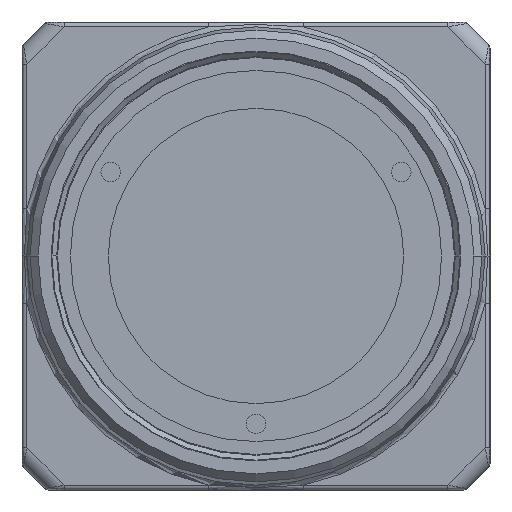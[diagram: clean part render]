
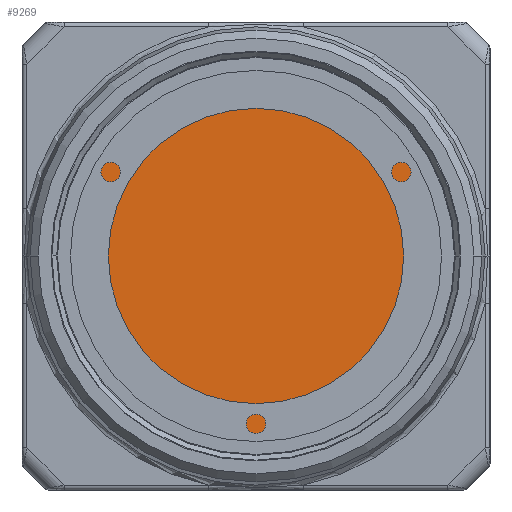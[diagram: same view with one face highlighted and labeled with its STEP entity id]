
A CAD part, left-side view. The second image highlights one B-rep face of the part: STEP entity #9269.
In plain terms, the highlighted planar face has unit normal (-1, 0, 0).
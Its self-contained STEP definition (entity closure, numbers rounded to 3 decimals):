
#9222=CARTESIAN_POINT('',(0.,0.,0.));
#9223=DIRECTION('',(1.,0.,0.));
#9224=DIRECTION('',(0.,-1.,0.));
#9225=AXIS2_PLACEMENT_3D('',#9222,#9223,#9224);
#9227=CARTESIAN_POINT('',(0.,0.,0.));
#9228=DIRECTION('',(1.,0.,0.));
#9229=DIRECTION('',(0.,1.,0.));
#9230=AXIS2_PLACEMENT_3D('',#9227,#9228,#9229);
#9250=CARTESIAN_POINT('',(0.,-11.15,0.));
#9251=CARTESIAN_POINT('',(0.,11.15,0.));
#9252=VERTEX_POINT('',#9250);
#9253=VERTEX_POINT('',#9251);
#9258=CARTESIAN_POINT('',(0.,0.,0.));
#9259=DIRECTION('',(1.,0.,0.));
#9260=DIRECTION('',(0.,-1.,0.));
#9261=AXIS2_PLACEMENT_3D('',#9258,#9259,#9260);
#9262=PLANE('',#9261);
#9264=ORIENTED_EDGE('',*,*,#9263,.T.);
#9266=ORIENTED_EDGE('',*,*,#9265,.T.);
#9267=EDGE_LOOP('',(#9264,#9266));
#9268=FACE_OUTER_BOUND('',#9267,.F.);
#9269=ADVANCED_FACE('',(#9268),#9262,.F.);
#9226=CIRCLE('',#9225,11.15);
#9231=CIRCLE('',#9230,11.15);
#9263=EDGE_CURVE('',#9252,#9253,#9226,.T.);
#9265=EDGE_CURVE('',#9253,#9252,#9231,.T.);
